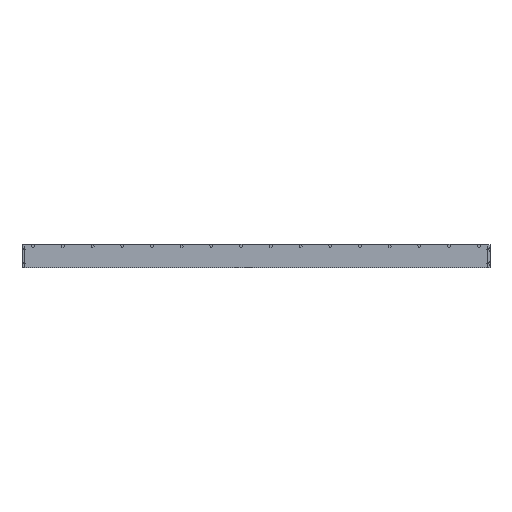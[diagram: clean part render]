
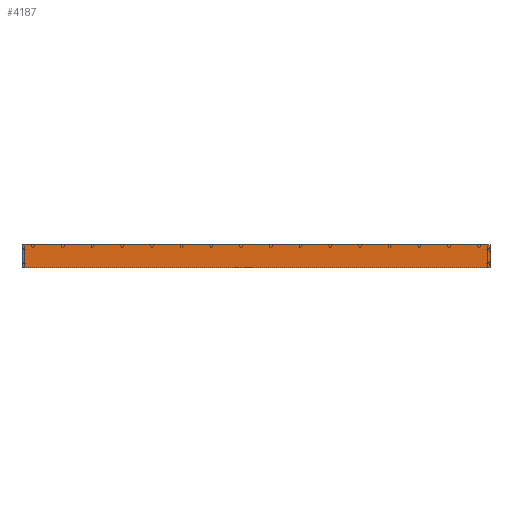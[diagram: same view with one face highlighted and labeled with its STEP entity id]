
A CAD part, front view. The second image highlights one B-rep face of the part: STEP entity #4187.
In plain terms, the highlighted planar face has unit normal (0, -1, 0) as drawn and (0, 0, 1) by its records, which use the part's own axes.
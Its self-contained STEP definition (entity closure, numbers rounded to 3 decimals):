
#451=PLANE('',#4577);
#567=LINE('',#5798,#1087);
#570=LINE('',#5804,#1090);
#571=LINE('',#5806,#1091);
#572=LINE('',#5808,#1092);
#1087=VECTOR('',#4984,1000.);
#1090=VECTOR('',#4989,1000.);
#1091=VECTOR('',#4990,1000.);
#1092=VECTOR('',#4991,1000.);
#1814=ORIENTED_EDGE('',*,*,#2802,.T.);
#1815=ORIENTED_EDGE('',*,*,#2803,.F.);
#1816=ORIENTED_EDGE('',*,*,#2804,.F.);
#1817=ORIENTED_EDGE('',*,*,#2799,.T.);
#2799=EDGE_CURVE('',#3320,#3319,#567,.T.);
#2802=EDGE_CURVE('',#3319,#3322,#570,.T.);
#2803=EDGE_CURVE('',#3323,#3322,#571,.T.);
#2804=EDGE_CURVE('',#3320,#3323,#572,.T.);
#3319=VERTEX_POINT('',#5797);
#3320=VERTEX_POINT('',#5799);
#3322=VERTEX_POINT('',#5805);
#3323=VERTEX_POINT('',#5807);
#3635=EDGE_LOOP('',(#1814,#1815,#1816,#1817));
#3899=FACE_BOUND('',#3635,.T.);
#4187=ADVANCED_FACE('',(#3899),#451,.F.);
#4577=AXIS2_PLACEMENT_3D('',#5803,#4987,#4988);
#4984=DIRECTION('',(-1.,0.,0.));
#4987=DIRECTION('',(0.,0.,-1.));
#4988=DIRECTION('',(-1.,0.,0.));
#4989=DIRECTION('',(0.,-1.,0.));
#4990=DIRECTION('',(-1.,0.,0.));
#4991=DIRECTION('',(0.,-1.,0.));
#5797=CARTESIAN_POINT('',(-300.,0.,500.));
#5798=CARTESIAN_POINT('',(300.,0.,500.));
#5799=CARTESIAN_POINT('',(300.,0.,500.));
#5803=CARTESIAN_POINT('',(300.,0.,500.));
#5804=CARTESIAN_POINT('',(-300.,0.,500.));
#5805=CARTESIAN_POINT('',(-300.,-30.,500.));
#5806=CARTESIAN_POINT('',(300.,-30.,500.));
#5807=CARTESIAN_POINT('',(300.,-30.,500.));
#5808=CARTESIAN_POINT('',(300.,0.,500.));
